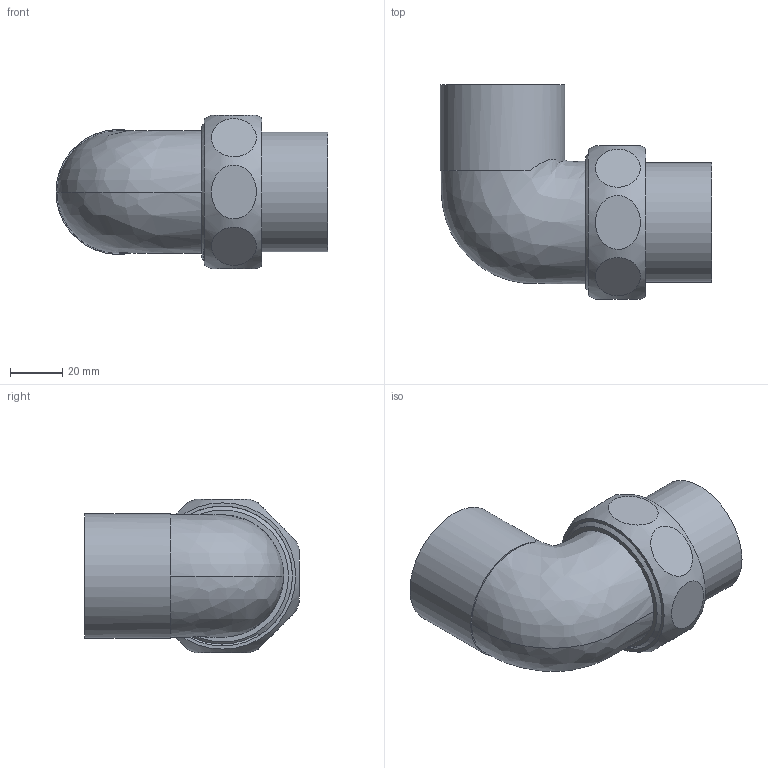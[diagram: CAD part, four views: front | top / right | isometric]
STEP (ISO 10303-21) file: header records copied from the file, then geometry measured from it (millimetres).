
FILE_DESCRIPTION((''),'2;1');
FILE_NAME('C:\Users\gomulka\Desktop\Lohse\1409642\1409642.stp','2014-08-28T09:43:17',('gomulka'),(''),'Autodesk Inventor 2009','Autodesk Inventor 2009','');
FILE_SCHEMA(('AUTOMOTIVE_DESIGN { 1 0 10303 214 1 1 1 1 }'));
Length unit declared in the file: millimetre
Products named in the file (4): 1409642; 1E4098G42134; 14381_42-134(2); 14374_134(2)
Assembly tree (3 placements, depth 2):
  1409642
    1E4098G42134
    14381_42-134(2)
    14374_134(2)
Bounding box: 104.56 x 82.5 x 59 mm (x, y, z)
Volume: 76500 mm3; surface area: 49055.6 mm2
Topology: 3 solids, 3 shells, 43 faces, 102 edges, 76 vertices
Faces by surface type: plane 20, cylinder 9, bspline 8, cone 5, torus 1
Full cylindrical faces by diameter (mm): 40 x1, 42 x2, 45.9 x1, 48 x2, 50.5 x1, 50.788 x1
Entity records: 4824 total; most frequent: CARTESIAN_POINT 3867, ORIENTED_EDGE 168, DIRECTION 142, EDGE_CURVE 84, EDGE_LOOP 76, VERTEX_POINT 74, AXIS2_PLACEMENT_3D 70, FACE_OUTER_BOUND 43
